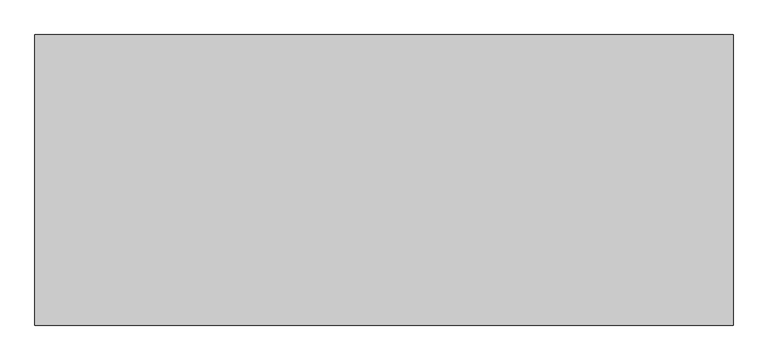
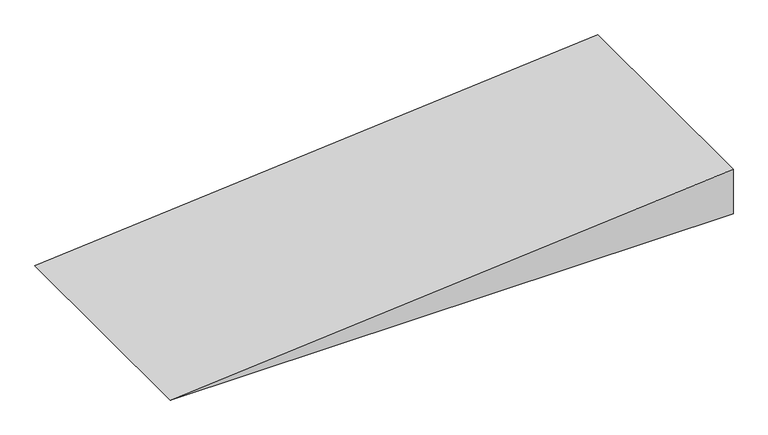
"""IFC4 building model written with IfcOpenShell, lengths in millimetres: ramp geometry, 坡道 1."""

from ifc_helpers import new_model, si_unit, frame, origin, place, context, project, spatial, polyline, outline, extrude, source, transform, mapped, element, save


def ramp_ccd530bd(model_context):
    return source(origin(), model_context, "Body", "SweptSolid", [
        extrude(outline(polyline([(0.0, 12400.0), (-300.0, 8796.4969701), (-300.0, 12400.0), (0.0, 12400.0)])), frame((0.0, -1600.0, 0.0), z_axis=(0.0, 1.0, 0.0), x_axis=(0.0, 0.0, 1.0)), (0.0, 0.0, 1.0), 1500.0),
    ])


if __name__ == "__main__":
    model = new_model("IFC4")
    model_context = context("Model", 3, world=origin())
    ifc_project = project(units=[si_unit("LENGTHUNIT", "METRE", prefix="MILLI")], contexts=[model_context])
    site = spatial("IfcSite", under=ifc_project)
    building = spatial("IfcBuilding", under=site)
    placement = place(None, origin())
    ramp_shape = ramp_ccd530bd(model_context)
    element("IfcRamp", 1, ObjectType="坡道 1", at=placement, inside=building, context=model_context, shape_type="MappedRepresentation", body=[
        mapped(ramp_shape, transform((0.0, 0.0, 0.0), x_axis=(1.0, 0.0, 0.0), y_axis=(0.0, 1.0, 0.0), z_axis=(0.0, 0.0, 1.0))),
    ])
    save(model, "model.ifc")
